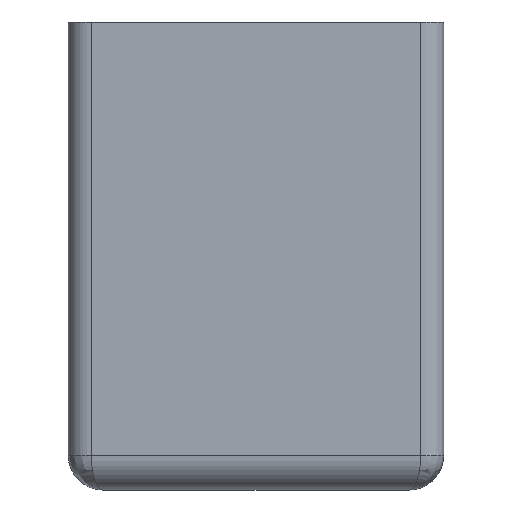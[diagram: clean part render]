
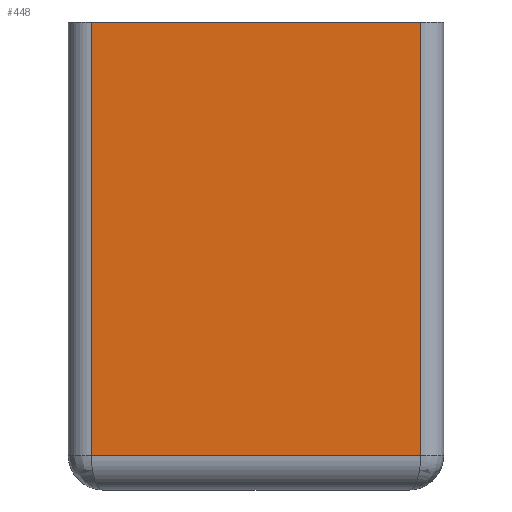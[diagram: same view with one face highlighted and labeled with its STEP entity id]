
A CAD part, front view. The second image highlights one B-rep face of the part: STEP entity #448.
In plain terms, the highlighted planar face has unit normal (0, -1, 0).
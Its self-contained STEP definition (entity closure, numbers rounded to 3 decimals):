
#13 = DIRECTION ( 'NONE',  ( 0., 0., 1. ) ) ;
#20 = DIRECTION ( 'NONE',  ( 1., 0., 0. ) ) ;
#28 = DIRECTION ( 'NONE',  ( 0., 1., 0. ) ) ;
#41 = EDGE_LOOP ( 'NONE', ( #363, #452, #257, #370 ) ) ;
#81 = LINE ( 'NONE', #628, #386 ) ;
#83 = EDGE_CURVE ( 'NONE', #1755, #1378, #199, .T. ) ;
#150 = VECTOR ( 'NONE', #20, 1000. ) ;
#199 = LINE ( 'NONE', #361, #1720 ) ;
#257 = ORIENTED_EDGE ( 'NONE', *, *, #1111, .T. ) ;
#361 = CARTESIAN_POINT ( 'NONE',  ( -28.5, -32.5, 102.5 ) ) ;
#363 = ORIENTED_EDGE ( 'NONE', *, *, #1265, .F. ) ;
#370 = ORIENTED_EDGE ( 'NONE', *, *, #1143, .T. ) ;
#386 = VECTOR ( 'NONE', #1740, 1000. ) ;
#401 = DIRECTION ( 'NONE',  ( 0., 0., 1. ) ) ;
#448 = ADVANCED_FACE ( 'NONE', ( #1001 ), #856, .F. ) ;
#452 = ORIENTED_EDGE ( 'NONE', *, *, #83, .T. ) ;
#481 = VERTEX_POINT ( 'NONE', #709 ) ;
#523 = CARTESIAN_POINT ( 'NONE',  ( -28.5, -32.5, 81. ) ) ;
#628 = CARTESIAN_POINT ( 'NONE',  ( 28.5, -32.5, 6. ) ) ;
#709 = CARTESIAN_POINT ( 'NONE',  ( 28.5, -32.5, 6. ) ) ;
#856 = PLANE ( 'NONE',  #1605 ) ;
#908 = VERTEX_POINT ( 'NONE', #1419 ) ;
#964 = CARTESIAN_POINT ( 'NONE',  ( 28.5, -32.5, 102.5 ) ) ;
#982 = LINE ( 'NONE', #1256, #150 ) ;
#1001 = FACE_OUTER_BOUND ( 'NONE', #41, .T. ) ;
#1111 = EDGE_CURVE ( 'NONE', #1378, #481, #81, .T. ) ;
#1143 = EDGE_CURVE ( 'NONE', #481, #908, #1189, .T. ) ;
#1189 = LINE ( 'NONE', #964, #1342 ) ;
#1256 = CARTESIAN_POINT ( 'NONE',  ( -32.5, -32.5, 81. ) ) ;
#1265 = EDGE_CURVE ( 'NONE', #1755, #908, #982, .T. ) ;
#1342 = VECTOR ( 'NONE', #401, 1000. ) ;
#1378 = VERTEX_POINT ( 'NONE', #1583 ) ;
#1419 = CARTESIAN_POINT ( 'NONE',  ( 28.5, -32.5, 81. ) ) ;
#1423 = DIRECTION ( 'NONE',  ( 0., 0., -1. ) ) ;
#1583 = CARTESIAN_POINT ( 'NONE',  ( -28.5, -32.5, 6. ) ) ;
#1605 = AXIS2_PLACEMENT_3D ( 'NONE', #1687, #28, #13 ) ;
#1687 = CARTESIAN_POINT ( 'NONE',  ( -32.5, -32.5, 102.5 ) ) ;
#1720 = VECTOR ( 'NONE', #1423, 1000. ) ;
#1740 = DIRECTION ( 'NONE',  ( 1., 0., 0. ) ) ;
#1755 = VERTEX_POINT ( 'NONE', #523 ) ;
